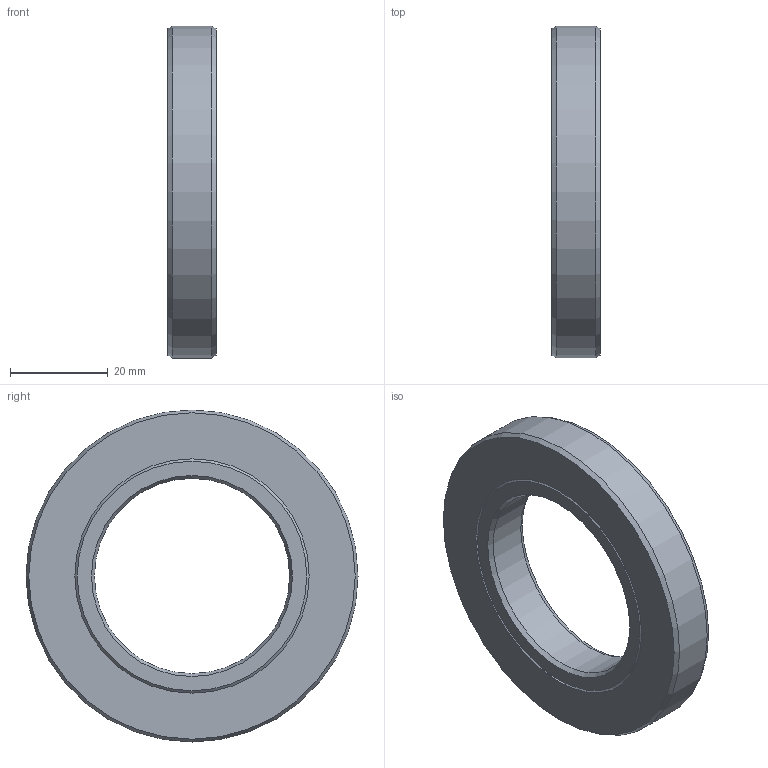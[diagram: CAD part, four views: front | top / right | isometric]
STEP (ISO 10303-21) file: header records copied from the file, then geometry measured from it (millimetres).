
FILE_DESCRIPTION(/* description */ (''),/* implementation_level */ '2;1');
FILE_NAME(/* name */ '301570 S40x68x10.stp',/* time_stamp */ '2016-12-16T13:41:19+01:00',/* author */ (''),/* organization */ (''),/* preprocessor_version */ 'ST-DEVELOPER v15',/* originating_system */ 'SIEMENS PLM Software NX 8.5',/* authorisation */ '');
FILE_SCHEMA (('CONFIG_CONTROL_DESIGN'));
Length unit declared in the file: millimetre
Products named in the file (1): ATE0000143_01
Bounding box: 10 x 68 x 68 mm (x, y, z)
Volume: 22699.6 mm3; surface area: 12237.6 mm2
Topology: 2 solids, 2 shells, 16 faces, 30 edges, 18 vertices
Faces by surface type: cone 10, plane 4, cylinder 2
Full cylindrical faces by diameter (mm): 40 x1, 68 x1
Entity records: 414 total; most frequent: DIRECTION 66, CARTESIAN_POINT 49, AXIS2_PLACEMENT_3D 33, FACE_BOUND 32, EDGE_LOOP 32, ORIENTED_EDGE 32, ADVANCED_FACE 16, VERTEX_POINT 16
